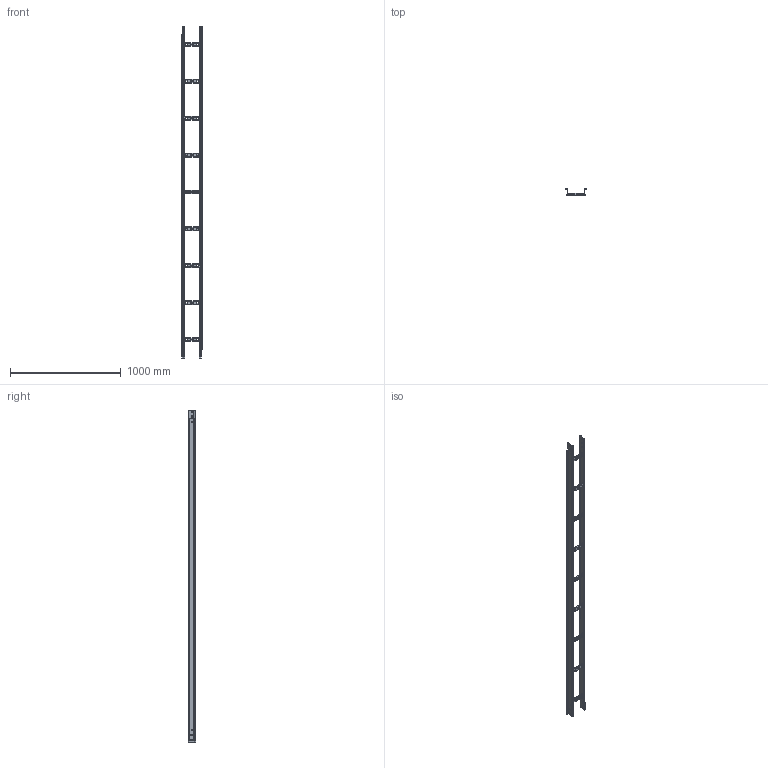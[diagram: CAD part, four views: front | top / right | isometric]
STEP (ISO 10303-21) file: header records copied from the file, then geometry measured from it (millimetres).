
FILE_DESCRIPTION (( 'STEP AP203' ), '1' );
FILE_NAME ('FE trav35 H60-75-100 p333 150x60.step', '2023-07-28T15:28:06', ( '' ), ( '' ), 'SwSTEP 2.0', 'SolidWorks 2022', '' );
FILE_SCHEMA (( 'CONFIG_CONTROL_DESIGN' ));
Length unit declared in the file: millimetre
Products named in the file (3): FE trav35 H60-75-100 p333 150x60; FE_MONTANTE_60x1,5; FE_RA35_150
Assembly tree (11 placements, depth 2):
  FE trav35 H60-75-100 p333 150x60
    FE_MONTANTE_60x1,5  x2
    FE_RA35_150  x9
Bounding box: 182 x 64.5 x 3000 mm (x, y, z)
Volume: 141862.7 mm3; surface area: 1376280.1 mm2
Topology: 9 solids, 13 shells, 657 faces, 1615 edges, 982 vertices
Faces by surface type: plane 436, cylinder 217, bspline 4
Entity records: 5478 total; most frequent: CARTESIAN_POINT 1228, DIRECTION 804, ORIENTED_EDGE 752, EDGE_CURVE 384, AXIS2_PLACEMENT_3D 282, VERTEX_POINT 246, LINE 240, VECTOR 240
